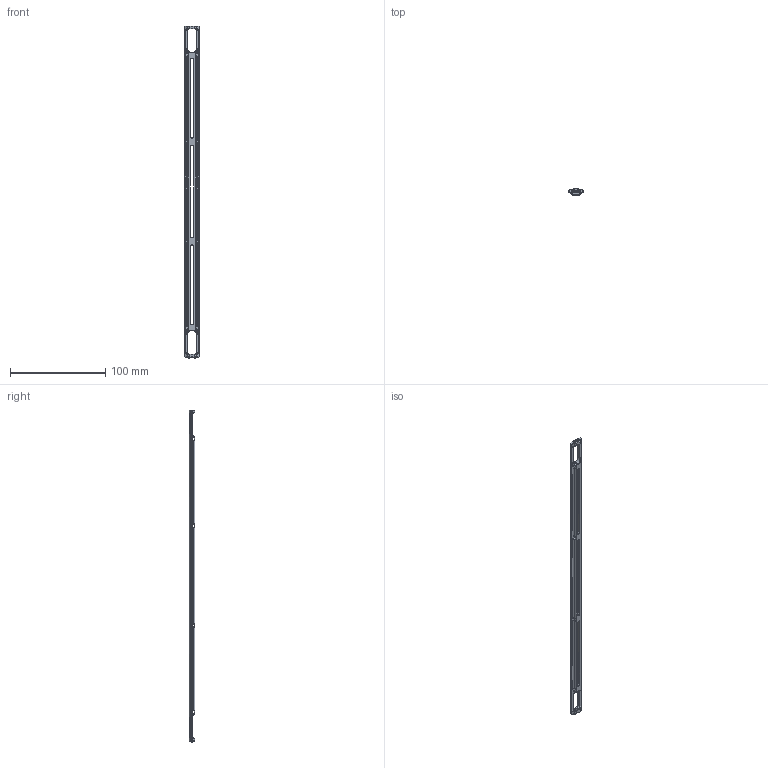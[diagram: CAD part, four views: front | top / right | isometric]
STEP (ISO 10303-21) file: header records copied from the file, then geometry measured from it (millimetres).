
FILE_DESCRIPTION (( 'STEP AP214' ), '1' );
FILE_NAME ('BR-102784-400_Rev_4.step', '2024-12-10T19:11:18', ( '' ), ( '' ), 'SwSTEP 2.0', 'SolidWorks 2024', '' );
FILE_SCHEMA (( 'AUTOMOTIVE_DESIGN' ));
Length unit declared in the file: millimetre
Products named in the file (1): BR-102784-400_Rev_4
Bounding box: 15 x 6.15 x 349 mm (x, y, z)
Volume: 13149.2 mm3; surface area: 14488.7 mm2
Topology: 1 solids, 1 shells, 358 faces, 875 edges, 491 vertices
Faces by surface type: plane 115, cylinder 86, bspline 81, cone 76
Entity records: 25063 total; most frequent: CARTESIAN_POINT 17651, ORIENTED_EDGE 1702, DIRECTION 1242, EDGE_CURVE 851, VERTEX_POINT 491, AXIS2_PLACEMENT_3D 444, EDGE_LOOP 380, FACE_OUTER_BOUND 358
